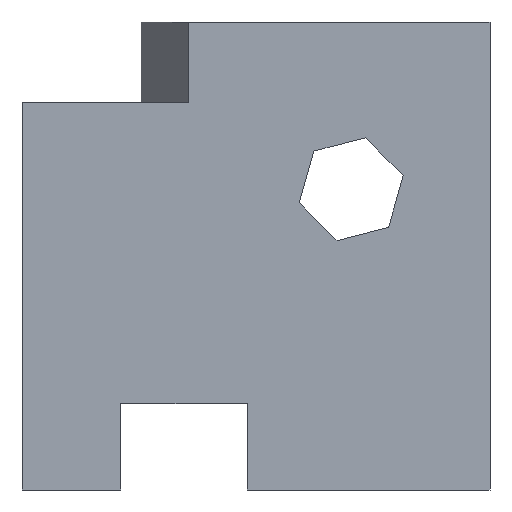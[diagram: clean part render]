
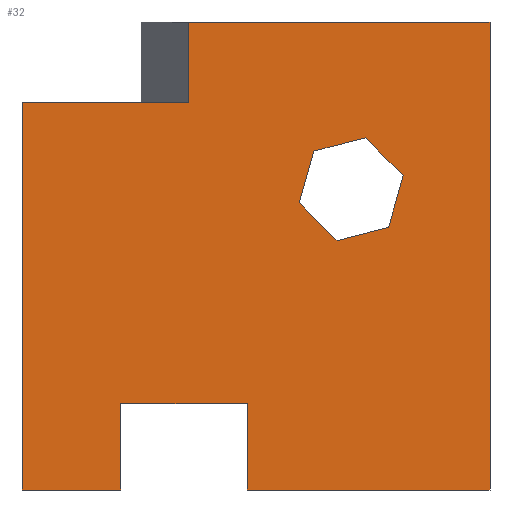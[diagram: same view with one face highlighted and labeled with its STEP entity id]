
A CAD part, front view. The second image highlights one B-rep face of the part: STEP entity #32.
In plain terms, the highlighted planar face has unit normal (0, -1, 0).
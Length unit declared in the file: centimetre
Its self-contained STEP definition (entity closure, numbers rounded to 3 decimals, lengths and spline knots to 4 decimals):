
#5 = CARTESIAN_POINT ( 'NONE',  ( 211.0327, 0., 0. ) ) ;
#10 = EDGE_CURVE ( 'NONE', #144, #321, #125, .T. ) ;
#22 = VERTEX_POINT ( 'NONE', #237 ) ;
#23 = VECTOR ( 'NONE', #469, 100. ) ;
#29 = EDGE_LOOP ( 'NONE', ( #33, #796, #233, #55, #663, #652 ) ) ;
#32 = ADVANCED_FACE ( 'NONE', ( #543, #725 ), #195, .F. ) ;
#33 = ORIENTED_EDGE ( 'NONE', *, *, #136, .T. ) ;
#34 = CARTESIAN_POINT ( 'NONE',  ( 355.0808, 0., 827.8235 ) ) ;
#44 = DIRECTION ( 'NONE',  ( -0.968, 0., -0.251 ) ) ;
#51 = DIRECTION ( 'NONE',  ( 1., 0., 0. ) ) ;
#55 = ORIENTED_EDGE ( 'NONE', *, *, #706, .T. ) ;
#68 = VERTEX_POINT ( 'NONE', #274 ) ;
#107 = ORIENTED_EDGE ( 'NONE', *, *, #702, .F. ) ;
#122 = ORIENTED_EDGE ( 'NONE', *, *, #385, .T. ) ;
#123 = CARTESIAN_POINT ( 'NONE',  ( 0., 0., 0. ) ) ;
#125 = LINE ( 'NONE', #332, #540 ) ;
#136 = EDGE_CURVE ( 'NONE', #712, #175, #849, .T. ) ;
#141 = ORIENTED_EDGE ( 'NONE', *, *, #816, .F. ) ;
#144 = VERTEX_POINT ( 'NONE', #355 ) ;
#150 = CARTESIAN_POINT ( 'NONE',  ( 592.4483, 0., 613.499 ) ) ;
#167 = CARTESIAN_POINT ( 'NONE',  ( 623.5696, 0., 724.0882 ) ) ;
#175 = VERTEX_POINT ( 'NONE', #705 ) ;
#188 = LINE ( 'NONE', #244, #815 ) ;
#192 = LINE ( 'NONE', #879, #474 ) ;
#195 = PLANE ( 'NONE',  #380 ) ;
#198 = LINE ( 'NONE', #678, #799 ) ;
#211 = CARTESIAN_POINT ( 'NONE',  ( 0., 0., 0. ) ) ;
#213 = VECTOR ( 'NONE', #727, 100. ) ;
#215 = VERTEX_POINT ( 'NONE', #518 ) ;
#225 = LINE ( 'NONE', #511, #213 ) ;
#228 = VECTOR ( 'NONE', #627, 100. ) ;
#233 = ORIENTED_EDGE ( 'NONE', *, *, #844, .T. ) ;
#237 = CARTESIAN_POINT ( 'NONE',  ( 355.0808, 0., 827.8235 ) ) ;
#238 = CARTESIAN_POINT ( 'NONE',  ( 733.9771, 0., 752.6792 ) ) ;
#244 = CARTESIAN_POINT ( 'NONE',  ( 783.4981, 0., 561.4477 ) ) ;
#247 = CARTESIAN_POINT ( 'NONE',  ( 211.0327, 0., 184.7259 ) ) ;
#254 = LINE ( 'NONE', #405, #858 ) ;
#260 = LINE ( 'NONE', #880, #282 ) ;
#274 = CARTESIAN_POINT ( 'NONE',  ( 623.5696, 0., 724.0882 ) ) ;
#282 = VECTOR ( 'NONE', #51, 100. ) ;
#283 = VECTOR ( 'NONE', #535, 100. ) ;
#304 = CARTESIAN_POINT ( 'NONE',  ( 481.4429, 0., 184.7259 ) ) ;
#307 = ORIENTED_EDGE ( 'NONE', *, *, #477, .F. ) ;
#319 = LINE ( 'NONE', #123, #329 ) ;
#321 = VERTEX_POINT ( 'NONE', #646 ) ;
#329 = VECTOR ( 'NONE', #746, 100. ) ;
#332 = CARTESIAN_POINT ( 'NONE',  ( 1000., 0., 1000. ) ) ;
#344 = CARTESIAN_POINT ( 'NONE',  ( 481.4429, 0., 0. ) ) ;
#355 = CARTESIAN_POINT ( 'NONE',  ( 1000., 0., 1000. ) ) ;
#358 = CARTESIAN_POINT ( 'NONE',  ( 673.0906, 0., 532.8567 ) ) ;
#374 = EDGE_LOOP ( 'NONE', ( #122, #695, #307, #141, #436, #777, #520, #107, #802, #791 ) ) ;
#380 = AXIS2_PLACEMENT_3D ( 'NONE', #471, #408, #686 ) ;
#385 = EDGE_CURVE ( 'NONE', #568, #558, #319, .T. ) ;
#389 = CARTESIAN_POINT ( 'NONE',  ( 783.4981, 0., 561.4477 ) ) ;
#394 = CARTESIAN_POINT ( 'NONE',  ( 211.0327, 0., 0. ) ) ;
#395 = EDGE_CURVE ( 'NONE', #533, #144, #260, .T. ) ;
#405 = CARTESIAN_POINT ( 'NONE',  ( 481.4429, 0., 0. ) ) ;
#408 = DIRECTION ( 'NONE',  ( 0., 1., 0. ) ) ;
#418 = LINE ( 'NONE', #211, #899 ) ;
#430 = DIRECTION ( 'NONE',  ( 0.707, 0., -0.707 ) ) ;
#436 = ORIENTED_EDGE ( 'NONE', *, *, #570, .T. ) ;
#443 = VECTOR ( 'NONE', #677, 100. ) ;
#453 = EDGE_CURVE ( 'NONE', #215, #22, #198, .T. ) ;
#461 = DIRECTION ( 'NONE',  ( 0., 0., 1. ) ) ;
#464 = LINE ( 'NONE', #538, #443 ) ;
#467 = VERTEX_POINT ( 'NONE', #389 ) ;
#469 = DIRECTION ( 'NONE',  ( -1., 0., 0. ) ) ;
#471 = CARTESIAN_POINT ( 'NONE',  ( 0., 0., 1000. ) ) ;
#474 = VECTOR ( 'NONE', #732, 100. ) ;
#477 = EDGE_CURVE ( 'NONE', #689, #901, #812, .T. ) ;
#479 = CARTESIAN_POINT ( 'NONE',  ( 0., 0., 0. ) ) ;
#484 = CARTESIAN_POINT ( 'NONE',  ( 355.0808, 0., 1000. ) ) ;
#511 = CARTESIAN_POINT ( 'NONE',  ( 673.0906, 0., 532.8567 ) ) ;
#518 = CARTESIAN_POINT ( 'NONE',  ( 0., 0., 827.8235 ) ) ;
#520 = ORIENTED_EDGE ( 'NONE', *, *, #395, .F. ) ;
#533 = VERTEX_POINT ( 'NONE', #484 ) ;
#535 = DIRECTION ( 'NONE',  ( 0., 0., -1. ) ) ;
#537 = VECTOR ( 'NONE', #430, 100. ) ;
#538 = CARTESIAN_POINT ( 'NONE',  ( 0., 0., 1000. ) ) ;
#540 = VECTOR ( 'NONE', #751, 100. ) ;
#543 = FACE_BOUND ( 'NONE', #29, .T. ) ;
#547 = VERTEX_POINT ( 'NONE', #344 ) ;
#549 = VECTOR ( 'NONE', #865, 100. ) ;
#558 = VERTEX_POINT ( 'NONE', #5 ) ;
#562 = VECTOR ( 'NONE', #718, 100. ) ;
#568 = VERTEX_POINT ( 'NONE', #479 ) ;
#570 = EDGE_CURVE ( 'NONE', #547, #321, #418, .T. ) ;
#578 = EDGE_CURVE ( 'NONE', #781, #68, #840, .T. ) ;
#626 = VERTEX_POINT ( 'NONE', #358 ) ;
#627 = DIRECTION ( 'NONE',  ( 0.271, 0., 0.963 ) ) ;
#635 = CARTESIAN_POINT ( 'NONE',  ( 592.4483, 0., 613.499 ) ) ;
#646 = CARTESIAN_POINT ( 'NONE',  ( 1000., 0., 0. ) ) ;
#652 = ORIENTED_EDGE ( 'NONE', *, *, #691, .T. ) ;
#663 = ORIENTED_EDGE ( 'NONE', *, *, #578, .T. ) ;
#664 = CARTESIAN_POINT ( 'NONE',  ( 211.0327, 0., 184.7259 ) ) ;
#672 = LINE ( 'NONE', #394, #283 ) ;
#677 = DIRECTION ( 'NONE',  ( 0., 0., -1. ) ) ;
#678 = CARTESIAN_POINT ( 'NONE',  ( 355.0808, 0., 827.8235 ) ) ;
#686 = DIRECTION ( 'NONE',  ( 0., 0., 1. ) ) ;
#689 = VERTEX_POINT ( 'NONE', #304 ) ;
#691 = EDGE_CURVE ( 'NONE', #68, #712, #851, .T. ) ;
#695 = ORIENTED_EDGE ( 'NONE', *, *, #810, .F. ) ;
#702 = EDGE_CURVE ( 'NONE', #22, #533, #721, .T. ) ;
#705 = CARTESIAN_POINT ( 'NONE',  ( 814.6194, 0., 672.0369 ) ) ;
#706 = EDGE_CURVE ( 'NONE', #626, #781, #225, .T. ) ;
#712 = VERTEX_POINT ( 'NONE', #238 ) ;
#718 = DIRECTION ( 'NONE',  ( 0., 0., 1. ) ) ;
#721 = LINE ( 'NONE', #34, #562 ) ;
#725 = FACE_OUTER_BOUND ( 'NONE', #374, .T. ) ;
#727 = DIRECTION ( 'NONE',  ( -0.707, 0., 0.707 ) ) ;
#732 = DIRECTION ( 'NONE',  ( -0.271, 0., -0.963 ) ) ;
#746 = DIRECTION ( 'NONE',  ( 1., 0., 0. ) ) ;
#751 = DIRECTION ( 'NONE',  ( 0., 0., -1. ) ) ;
#763 = DIRECTION ( 'NONE',  ( 1., 0., 0. ) ) ;
#777 = ORIENTED_EDGE ( 'NONE', *, *, #10, .F. ) ;
#781 = VERTEX_POINT ( 'NONE', #150 ) ;
#791 = ORIENTED_EDGE ( 'NONE', *, *, #872, .T. ) ;
#796 = ORIENTED_EDGE ( 'NONE', *, *, #878, .T. ) ;
#799 = VECTOR ( 'NONE', #823, 100. ) ;
#802 = ORIENTED_EDGE ( 'NONE', *, *, #453, .F. ) ;
#810 = EDGE_CURVE ( 'NONE', #901, #558, #672, .T. ) ;
#812 = LINE ( 'NONE', #247, #23 ) ;
#815 = VECTOR ( 'NONE', #44, 100. ) ;
#816 = EDGE_CURVE ( 'NONE', #547, #689, #254, .T. ) ;
#823 = DIRECTION ( 'NONE',  ( 1., 0., 0. ) ) ;
#840 = LINE ( 'NONE', #635, #228 ) ;
#844 = EDGE_CURVE ( 'NONE', #467, #626, #188, .T. ) ;
#849 = LINE ( 'NONE', #898, #537 ) ;
#851 = LINE ( 'NONE', #167, #549 ) ;
#858 = VECTOR ( 'NONE', #461, 100. ) ;
#865 = DIRECTION ( 'NONE',  ( 0.968, 0., 0.251 ) ) ;
#872 = EDGE_CURVE ( 'NONE', #215, #568, #464, .T. ) ;
#878 = EDGE_CURVE ( 'NONE', #175, #467, #192, .T. ) ;
#879 = CARTESIAN_POINT ( 'NONE',  ( 814.6194, 0., 672.0369 ) ) ;
#880 = CARTESIAN_POINT ( 'NONE',  ( 0., 0., 1000. ) ) ;
#898 = CARTESIAN_POINT ( 'NONE',  ( 733.9771, 0., 752.6792 ) ) ;
#899 = VECTOR ( 'NONE', #763, 100. ) ;
#901 = VERTEX_POINT ( 'NONE', #664 ) ;
